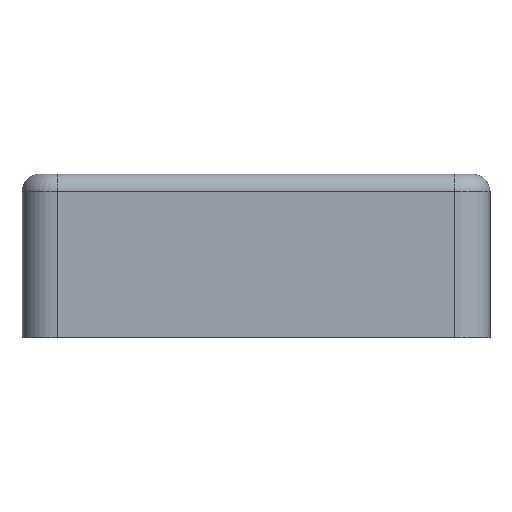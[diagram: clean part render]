
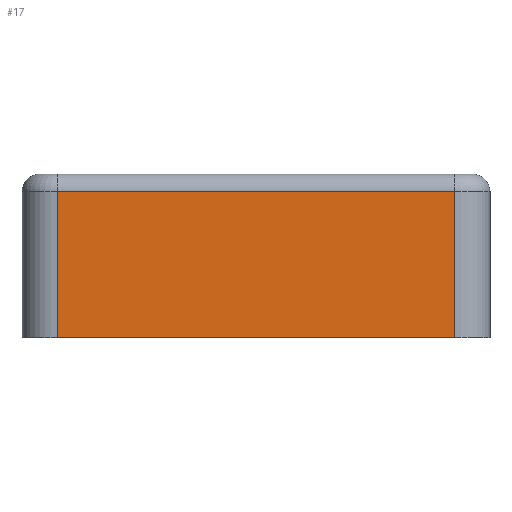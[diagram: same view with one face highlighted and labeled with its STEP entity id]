
A CAD part, left-side view. The second image highlights one B-rep face of the part: STEP entity #17.
In plain terms, the highlighted planar face has unit normal (-1, 0, 0).
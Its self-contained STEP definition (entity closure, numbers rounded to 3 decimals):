
#17 = ADVANCED_FACE('',(#18),#32,.F.);
#18 = FACE_BOUND('',#19,.F.);
#19 = EDGE_LOOP('',(#20,#55,#83,#111));
#20 = ORIENTED_EDGE('',*,*,#21,.F.);
#21 = EDGE_CURVE('',#22,#24,#26,.T.);
#22 = VERTEX_POINT('',#23);
#23 = CARTESIAN_POINT('',(-50.,-34.,0.));
#24 = VERTEX_POINT('',#25);
#25 = CARTESIAN_POINT('',(-50.,-34.,25.));
#26 = SURFACE_CURVE('',#27,(#31,#43),.PCURVE_S1.);
#27 = LINE('',#28,#29);
#28 = CARTESIAN_POINT('',(-50.,-34.,0.));
#29 = VECTOR('',#30,1.);
#30 = DIRECTION('',(0.,0.,1.));
#31 = PCURVE('',#32,#37);
#32 = PLANE('',#33);
#33 = AXIS2_PLACEMENT_3D('',#34,#35,#36);
#34 = CARTESIAN_POINT('',(-50.,-40.,0.));
#35 = DIRECTION('',(1.,0.,0.));
#36 = DIRECTION('',(0.,0.,1.));
#37 = DEFINITIONAL_REPRESENTATION('',(#38),#42);
#38 = LINE('',#39,#40);
#39 = CARTESIAN_POINT('',(0.,-6.));
#40 = VECTOR('',#41,1.);
#41 = DIRECTION('',(1.,0.));
#42 = ( GEOMETRIC_REPRESENTATION_CONTEXT(2) 
PARAMETRIC_REPRESENTATION_CONTEXT() REPRESENTATION_CONTEXT('2D SPACE',''
  ) );
#43 = PCURVE('',#44,#49);
#44 = CYLINDRICAL_SURFACE('',#45,6.);
#45 = AXIS2_PLACEMENT_3D('',#46,#47,#48);
#46 = CARTESIAN_POINT('',(-44.,-34.,0.));
#47 = DIRECTION('',(0.,0.,1.));
#48 = DIRECTION('',(-1.,-0.,0.));
#49 = DEFINITIONAL_REPRESENTATION('',(#50),#54);
#50 = LINE('',#51,#52);
#51 = CARTESIAN_POINT('',(0.,0.));
#52 = VECTOR('',#53,1.);
#53 = DIRECTION('',(0.,1.));
#54 = ( GEOMETRIC_REPRESENTATION_CONTEXT(2) 
PARAMETRIC_REPRESENTATION_CONTEXT() REPRESENTATION_CONTEXT('2D SPACE',''
  ) );
#55 = ORIENTED_EDGE('',*,*,#56,.T.);
#56 = EDGE_CURVE('',#22,#57,#59,.T.);
#57 = VERTEX_POINT('',#58);
#58 = CARTESIAN_POINT('',(-50.,34.,0.));
#59 = SURFACE_CURVE('',#60,(#64,#71),.PCURVE_S1.);
#60 = LINE('',#61,#62);
#61 = CARTESIAN_POINT('',(-50.,-40.,0.));
#62 = VECTOR('',#63,1.);
#63 = DIRECTION('',(0.,1.,0.));
#64 = PCURVE('',#32,#65);
#65 = DEFINITIONAL_REPRESENTATION('',(#66),#70);
#66 = LINE('',#67,#68);
#67 = CARTESIAN_POINT('',(0.,0.));
#68 = VECTOR('',#69,1.);
#69 = DIRECTION('',(0.,-1.));
#70 = ( GEOMETRIC_REPRESENTATION_CONTEXT(2) 
PARAMETRIC_REPRESENTATION_CONTEXT() REPRESENTATION_CONTEXT('2D SPACE',''
  ) );
#71 = PCURVE('',#72,#77);
#72 = PLANE('',#73);
#73 = AXIS2_PLACEMENT_3D('',#74,#75,#76);
#74 = CARTESIAN_POINT('',(-50.,-40.,0.));
#75 = DIRECTION('',(0.,0.,1.));
#76 = DIRECTION('',(1.,0.,0.));
#77 = DEFINITIONAL_REPRESENTATION('',(#78),#82);
#78 = LINE('',#79,#80);
#79 = CARTESIAN_POINT('',(0.,0.));
#80 = VECTOR('',#81,1.);
#81 = DIRECTION('',(0.,1.));
#82 = ( GEOMETRIC_REPRESENTATION_CONTEXT(2) 
PARAMETRIC_REPRESENTATION_CONTEXT() REPRESENTATION_CONTEXT('2D SPACE',''
  ) );
#83 = ORIENTED_EDGE('',*,*,#84,.T.);
#84 = EDGE_CURVE('',#57,#85,#87,.T.);
#85 = VERTEX_POINT('',#86);
#86 = CARTESIAN_POINT('',(-50.,34.,25.));
#87 = SURFACE_CURVE('',#88,(#92,#99),.PCURVE_S1.);
#88 = LINE('',#89,#90);
#89 = CARTESIAN_POINT('',(-50.,34.,0.));
#90 = VECTOR('',#91,1.);
#91 = DIRECTION('',(0.,0.,1.));
#92 = PCURVE('',#32,#93);
#93 = DEFINITIONAL_REPRESENTATION('',(#94),#98);
#94 = LINE('',#95,#96);
#95 = CARTESIAN_POINT('',(0.,-74.));
#96 = VECTOR('',#97,1.);
#97 = DIRECTION('',(1.,0.));
#98 = ( GEOMETRIC_REPRESENTATION_CONTEXT(2) 
PARAMETRIC_REPRESENTATION_CONTEXT() REPRESENTATION_CONTEXT('2D SPACE',''
  ) );
#99 = PCURVE('',#100,#105);
#100 = CYLINDRICAL_SURFACE('',#101,6.);
#101 = AXIS2_PLACEMENT_3D('',#102,#103,#104);
#102 = CARTESIAN_POINT('',(-44.,34.,0.));
#103 = DIRECTION('',(0.,0.,1.));
#104 = DIRECTION('',(-1.,-0.,0.));
#105 = DEFINITIONAL_REPRESENTATION('',(#106),#110);
#106 = LINE('',#107,#108);
#107 = CARTESIAN_POINT('',(-0.,0.));
#108 = VECTOR('',#109,1.);
#109 = DIRECTION('',(-0.,1.));
#110 = ( GEOMETRIC_REPRESENTATION_CONTEXT(2) 
PARAMETRIC_REPRESENTATION_CONTEXT() REPRESENTATION_CONTEXT('2D SPACE',''
  ) );
#111 = ORIENTED_EDGE('',*,*,#112,.F.);
#112 = EDGE_CURVE('',#24,#85,#113,.T.);
#113 = SURFACE_CURVE('',#114,(#118,#125),.PCURVE_S1.);
#114 = LINE('',#115,#116);
#115 = CARTESIAN_POINT('',(-50.,-34.,25.));
#116 = VECTOR('',#117,1.);
#117 = DIRECTION('',(0.,1.,0.));
#118 = PCURVE('',#32,#119);
#119 = DEFINITIONAL_REPRESENTATION('',(#120),#124);
#120 = LINE('',#121,#122);
#121 = CARTESIAN_POINT('',(25.,-6.));
#122 = VECTOR('',#123,1.);
#123 = DIRECTION('',(0.,-1.));
#124 = ( GEOMETRIC_REPRESENTATION_CONTEXT(2) 
PARAMETRIC_REPRESENTATION_CONTEXT() REPRESENTATION_CONTEXT('2D SPACE',''
  ) );
#125 = PCURVE('',#126,#131);
#126 = CYLINDRICAL_SURFACE('',#127,3.);
#127 = AXIS2_PLACEMENT_3D('',#128,#129,#130);
#128 = CARTESIAN_POINT('',(-47.,-34.,25.));
#129 = DIRECTION('',(0.,1.,0.));
#130 = DIRECTION('',(-1.,0.,0.));
#131 = DEFINITIONAL_REPRESENTATION('',(#132),#136);
#132 = LINE('',#133,#134);
#133 = CARTESIAN_POINT('',(0.,0.));
#134 = VECTOR('',#135,1.);
#135 = DIRECTION('',(0.,1.));
#136 = ( GEOMETRIC_REPRESENTATION_CONTEXT(2) 
PARAMETRIC_REPRESENTATION_CONTEXT() REPRESENTATION_CONTEXT('2D SPACE',''
  ) );
